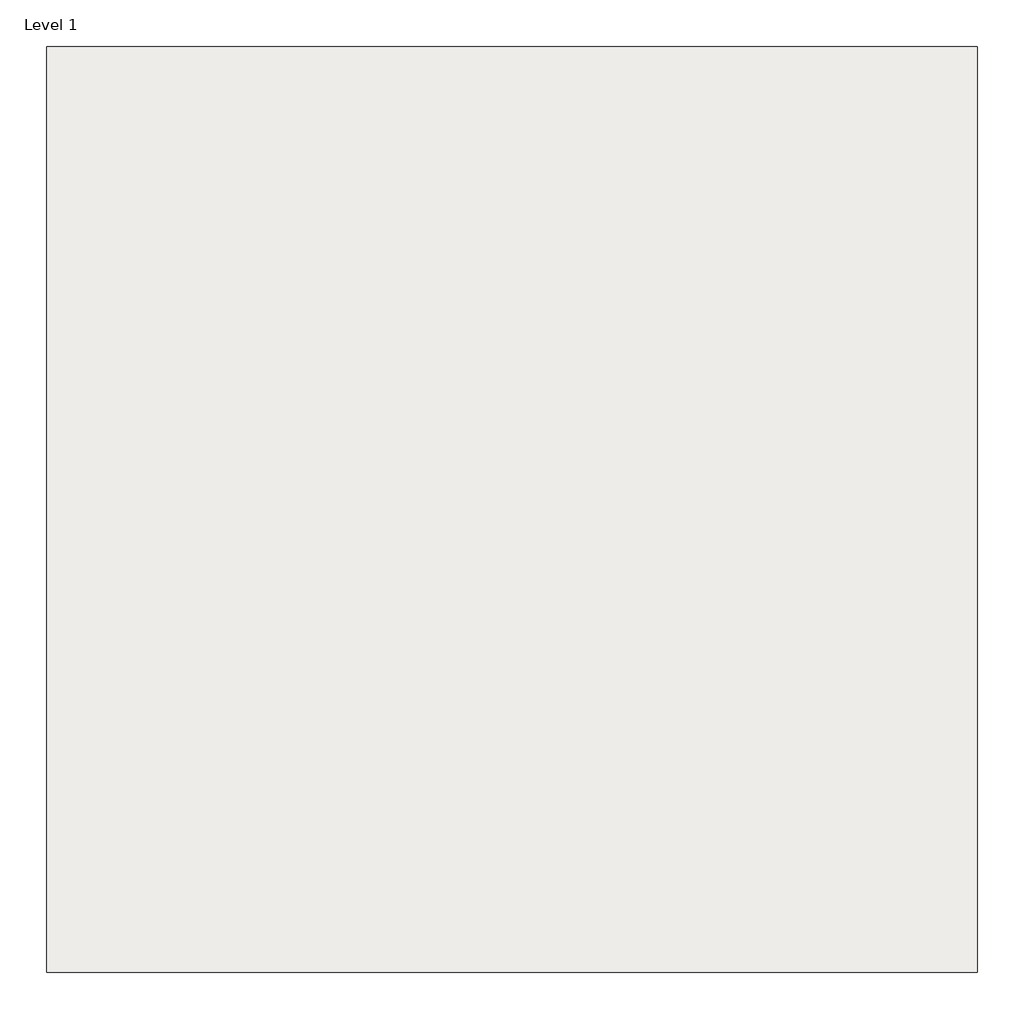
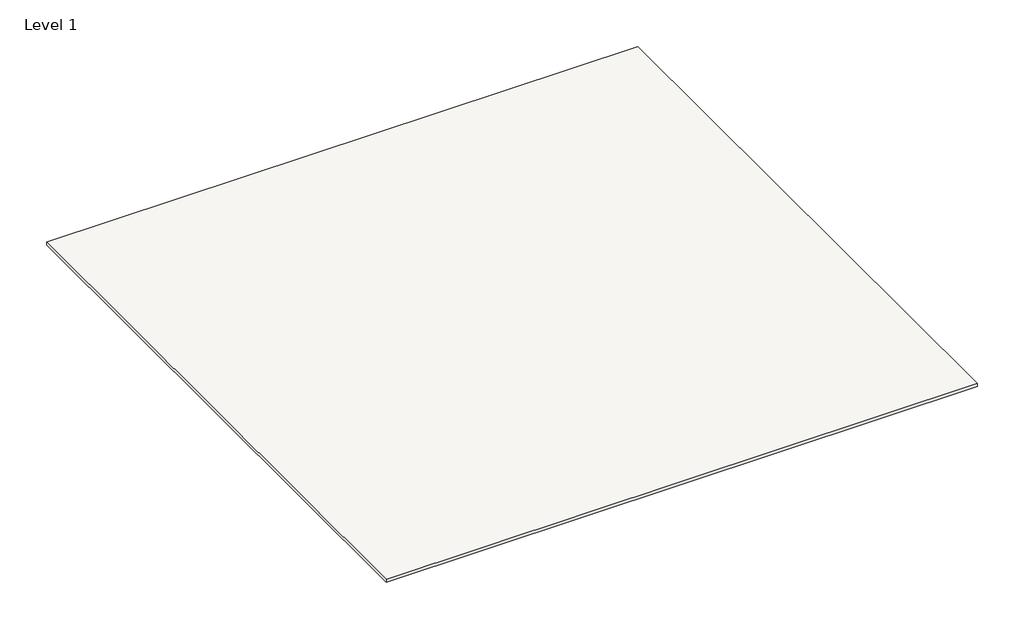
# One storey: 1 covering.
"""IFC4 building model written with IfcOpenShell, lengths in millimetres."""

import ifcopenshell
import ifcopenshell.guid

model = None  # the IFC model being written
_history = None  # IfcOwnerHistory: only IFC2X3 demands one
_inside = {}  # id of a spatial element -> (the spatial element, [elements in it])
_under = {}  # id of a project, library or spatial element -> (it, [spatial elements below it])
_declared = {}  # id of a project -> (the project, [libraries it declares])
_typed = {}  # id of a type object -> (the type object, [elements of that type])
_made_of = {}  # id of a material, layer set ... -> (it, [elements and type objects made of it])


def new_model(schema):
    """Start an empty IFC model of exactly this schema.

    Asked for "IFC4X3", IfcOpenShell would pick the latest addendum, in which some entities
    have other attributes; the version numbers below select the first issue.
    IFC2X3 requires an IfcOwnerHistory on every rooted entity: one is made here for all.
    """
    global model, _history
    if schema == "IFC4X3":
        model = ifcopenshell.file(schema_version=(4, 3, 0, 0))
    else:
        model = ifcopenshell.file(schema=schema)
    _inside.clear()
    _under.clear()
    _declared.clear()
    _typed.clear()
    _made_of.clear()
    _history = None
    if model.schema == "IFC2X3":
        org = make("IfcOrganization", Name="unknown")
        user = make(
            "IfcPersonAndOrganization",
            ThePerson=make("IfcPerson", FamilyName="unknown"),
            TheOrganization=org,
        )
        app = make(
            "IfcApplication",
            ApplicationDeveloper=org,
            Version="unknown",
            ApplicationFullName="unknown",
            ApplicationIdentifier="unknown",
        )
        _history = make(
            "IfcOwnerHistory",
            OwningUser=user,
            OwningApplication=app,
            ChangeAction="ADDED",
            CreationDate=0,
        )
    return model


def make(cls, **values):
    """One entity of the class cls with the attributes given. An attribute that is None is left unset."""
    return model.create_entity(
        cls, **{name: value for name, value in values.items() if value is not None}
    )


def rooted(cls, **values):
    """An entity with a GlobalId (a new one), such as an element, a storey or a relation."""
    return make(cls, GlobalId=ifcopenshell.guid.new(), OwnerHistory=_history, **values)


def si_unit(unit_type, name, prefix=None):
    """IfcSIUnit, for example si_unit("LENGTHUNIT", "METRE", prefix="MILLI")."""
    return make("IfcSIUnit", UnitType=unit_type, Prefix=prefix, Name=name)


def assignment(units):
    """IfcUnitAssignment: the units of a project."""
    return None if units is None else make("IfcUnitAssignment", Units=units)


def point(xyz):
    """IfcCartesianPoint."""
    return None if xyz is None else make("IfcCartesianPoint", Coordinates=xyz)


def direction(xyz):
    """IfcDirection."""
    return None if xyz is None else make("IfcDirection", DirectionRatios=xyz)


def frame(location, z_axis=None, x_axis=None):
    """IfcAxis2Placement3D, a coordinate frame: its origin and axes. An axis left out is left unset."""
    return make(
        "IfcAxis2Placement3D",
        Location=point(location),
        Axis=direction(z_axis),
        RefDirection=direction(x_axis),
    )


def origin():
    """The frame at (0, 0, 0) with its axes left unset."""
    return frame((0.0, 0.0, 0.0))


def origin_with_axes():
    """The frame at (0, 0, 0) with the z axis (0, 0, 1) and the x axis (1, 0, 0) written out."""
    return frame((0.0, 0.0, 0.0), z_axis=(0.0, 0.0, 1.0), x_axis=(1.0, 0.0, 0.0))


def place(relative_to, where):
    """IfcLocalPlacement: puts the frame where relative to a parent placement (None: the world)."""
    return make(
        "IfcLocalPlacement", PlacementRelTo=relative_to, RelativePlacement=where
    )


def context(
    kind, dimensions, precision=None, world=None, true_north=None, identifier=None
):
    """IfcGeometricRepresentationContext, for example the 3D "Model" context."""
    return make(
        "IfcGeometricRepresentationContext",
        ContextIdentifier=identifier,
        ContextType=kind,
        CoordinateSpaceDimension=dimensions,
        Precision=precision,
        WorldCoordinateSystem=world,
        TrueNorth=true_north,
    )


def project(units=None, contexts=None):
    """IfcProject with its units and contexts."""
    return rooted(
        "IfcProject",
        Name="project",
        RepresentationContexts=contexts,
        UnitsInContext=assignment(units),
    )


def spatial(cls, under=None, at=None, **own):
    """A site, building, storey or space (cls), placed at a placement, below another one or the project."""
    s = rooted(cls, ObjectPlacement=at, **own)
    if under is not None:
        _under.setdefault(under.id(), (under, []))[1].append(s)
    return s


def polyline(points):
    """IfcPolyline through the points."""
    return make("IfcPolyline", Points=[point(p) for p in points])


def outline(outer, holes=None, kind="AREA"):
    """IfcArbitraryClosedProfileDef: a profile drawn as a closed curve; with holes, ...WithVoids."""
    if holes is None:
        return make("IfcArbitraryClosedProfileDef", ProfileType=kind, OuterCurve=outer)
    return make(
        "IfcArbitraryProfileDefWithVoids",
        ProfileType=kind,
        OuterCurve=outer,
        InnerCurves=holes,
    )


def extrude(swept, where, along, depth):
    """IfcExtrudedAreaSolid: the profile swept, set in the frame where, extruded along a direction by depth."""
    return make(
        "IfcExtrudedAreaSolid",
        SweptArea=swept,
        Position=where,
        ExtrudedDirection=direction(along),
        Depth=depth,
    )


def shape(context_of_items, identifier, shape_type, items):
    """IfcShapeRepresentation: the items that make up one representation, for example the "Body"."""
    return make(
        "IfcShapeRepresentation",
        ContextOfItems=context_of_items,
        RepresentationIdentifier=identifier,
        RepresentationType=shape_type,
        Items=items,
    )


def made_of(thing, what):
    """Note that an element or type object is made of a material, layer set ...; save() writes the relation."""
    if what is not None:
        _made_of.setdefault(what.id(), (what, []))[1].append(thing)
    return thing


def element(
    cls,
    number,
    at=None,
    inside=None,
    cuts=None,
    type_object=None,
    material=None,
    context=None,
    identifier="Body",
    shape_type=None,
    held_by="IfcProductDefinitionShape",
    body=None,
    shapes=None,
    **own,
):
    """One element of the class cls, such as IfcWall. Its Tag is "e" and its number.

    at: its placement. inside: the storey or other place that contains it. cuts: it is an
    opening in that element (IfcRelVoidsElement). A single representation is given by context,
    identifier, shape_type and body (its items); several are given by shapes. held_by: the class
    of the entity that holds the representations. save() writes the other relations.
    """
    e = rooted(cls, Tag="e%d" % number, ObjectPlacement=at, **own)
    if body is not None:
        shapes = [shape(context, identifier, shape_type, body)]
    if shapes is not None:
        e.Representation = make(held_by, Representations=shapes)
    if inside is not None:
        _inside.setdefault(inside.id(), (inside, []))[1].append(e)
    if cuts is not None:
        rooted(
            "IfcRelVoidsElement", RelatingBuildingElement=cuts, RelatedOpeningElement=e
        )
    if type_object is not None:
        _typed.setdefault(type_object.id(), (type_object, []))[1].append(e)
    return made_of(e, material)


def aggregate(whole, parts):
    """IfcRelAggregates: a whole, such as a stair, and the parts it consists of."""
    return rooted("IfcRelAggregates", RelatingObject=whole, RelatedObjects=parts)


def save(model, path):
    """Write the relations noted so far, then the file.

    IfcRelAggregates (storeys below a building ...), IfcRelContainedInSpatialStructure (elements
    in a storey), IfcRelDefinesByType, IfcRelAssociatesMaterial and IfcRelDeclares: one each for
    every whole, place, type object, material and project.
    """
    for whole, parts in _under.values():
        aggregate(whole, parts)
    for where, things in _inside.values():
        rooted(
            "IfcRelContainedInSpatialStructure",
            RelatedElements=things,
            RelatingStructure=where,
        )
    for kind, things in _typed.values():
        rooted("IfcRelDefinesByType", RelatedObjects=things, RelatingType=kind)
    for what, things in _made_of.values():
        rooted("IfcRelAssociatesMaterial", RelatedObjects=things, RelatingMaterial=what)
    for by, libraries in _declared.values():
        rooted("IfcRelDeclares", RelatingContext=by, RelatedDefinitions=libraries)
    model.write(path)


model = new_model("IFC4")

# Units and contexts
model_context = context("Model", 3, world=origin())
ifc_project = project(units=[si_unit("LENGTHUNIT", "METRE", prefix="MILLI")], contexts=[model_context])

# Site, building, storey
site = spatial("IfcSite", under=ifc_project)
building = spatial("IfcBuilding", under=site)
storey = spatial("IfcBuildingStorey", under=building, Name="Level 1", Elevation=0.0)

# Covering
placement = place(None, origin())
element("IfcCovering", 1, ObjectType="Rockfon Sonar SQ 2'x2'x1''", at=placement, inside=storey, context=model_context, shape_type="SweptSolid", body=[
    extrude(outline(polyline([(-8901.3776569, 5089.2737695), (-8901.3776569, 288.6737695), (-13727.3776569, 288.6737695), (-13727.3776569, 5089.2737695), (-8901.3776569, 5089.2737695)])), origin_with_axes(), (0.0, 0.0, 1.0), 24.9936),
])

save(model, "model.ifc")
